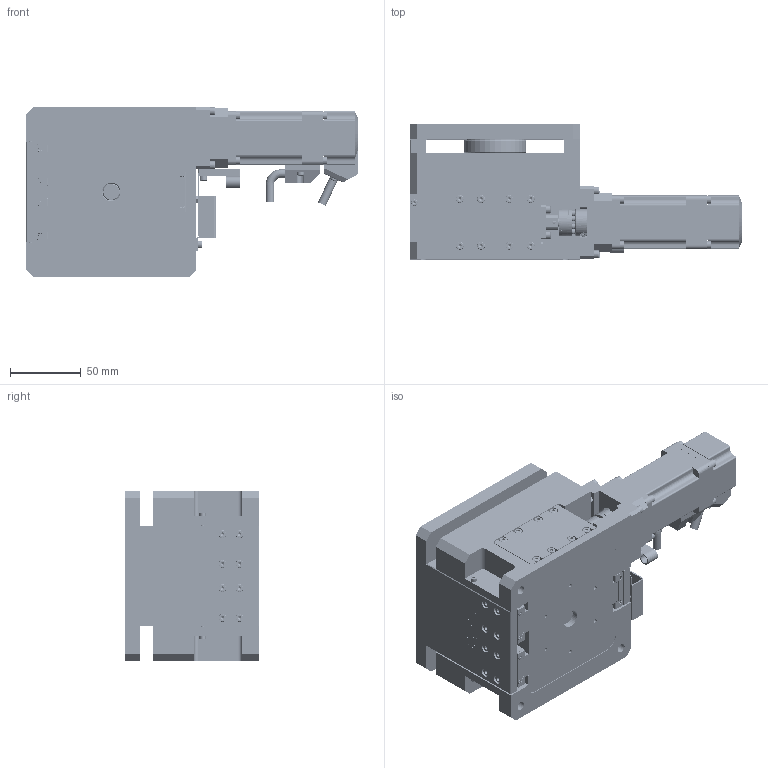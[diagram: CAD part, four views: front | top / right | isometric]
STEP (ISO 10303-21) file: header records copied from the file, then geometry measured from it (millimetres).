
FILE_DESCRIPTION (( 'STEP AP203' ), '1' );
FILE_NAME ('CZF20-120-ASP1(AP203).STEP', '2022-02-22T04:04:30', ( '' ), ( '' ), 'SwSTEP 2.0', 'SolidWorks 2017', '' );
FILE_SCHEMA (( 'CONFIG_CONTROL_DESIGN' ));
Products named in the file (1): CZF20-120-ASP1(AP203)
Bounding box: 234.08 x 95 x 120 mm (x, y, z)
Surface area: 297673.3 mm2 (no closed solid volume)
Topology: 0 solids, 109 shells, 5170 faces, 13108 edges, 8222 vertices
Faces by surface type: plane 2537, cylinder 1680, cone 642, bspline 187, torus 124
Entity records: 178668 total; most frequent: CARTESIAN_POINT 57096, ORIENTED_EDGE 25568, DIRECTION 24233, EDGE_CURVE 12812, AXIS2_PLACEMENT_3D 8524, VERTEX_POINT 8222, VECTOR 7185, LINE 7185
